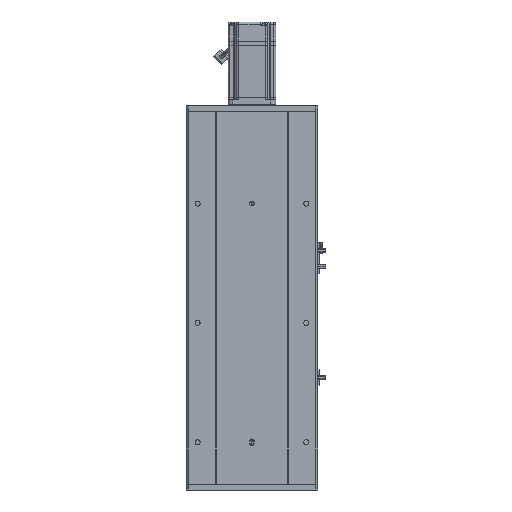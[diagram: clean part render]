
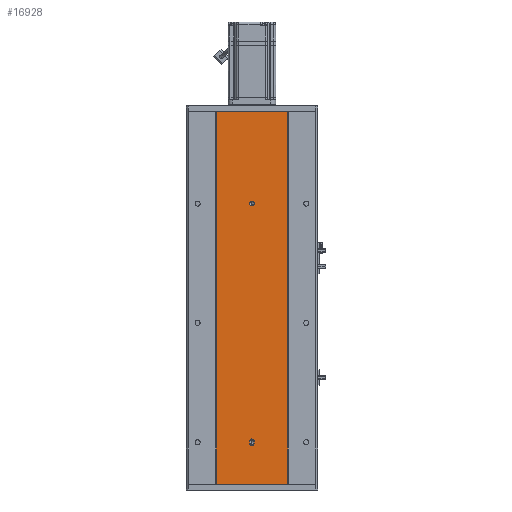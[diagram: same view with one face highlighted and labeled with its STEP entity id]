
A CAD part, front view. The second image highlights one B-rep face of the part: STEP entity #16928.
In plain terms, the highlighted planar face has unit normal (0, -1, 0).
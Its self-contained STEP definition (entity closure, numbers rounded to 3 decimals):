
#451 = EDGE_CURVE ( 'NONE', #21942, #5279, #33076, .T. ) ;
#702 = VERTEX_POINT ( 'NONE', #20061 ) ;
#1174 = DIRECTION ( 'NONE',  ( 0., 0., -1. ) ) ;
#1619 = EDGE_CURVE ( 'NONE', #4469, #5279, #26651, .T. ) ;
#3752 = CARTESIAN_POINT ( 'NONE',  ( 60., 0., 624. ) ) ;
#4342 = DIRECTION ( 'NONE',  ( 0., -1., 0. ) ) ;
#4355 = DIRECTION ( 'NONE',  ( 0., 0., -1. ) ) ;
#4469 = VERTEX_POINT ( 'NONE', #17602 ) ;
#4939 = AXIS2_PLACEMENT_3D ( 'NONE', #42041, #21781, #22253 ) ;
#5279 = VERTEX_POINT ( 'NONE', #45849 ) ;
#7322 = EDGE_CURVE ( 'NONE', #24122, #21942, #58345, .T. ) ;
#7443 = EDGE_CURVE ( 'NONE', #24122, #4469, #61464, .T. ) ;
#7444 = CARTESIAN_POINT ( 'NONE',  ( 0., 0., 64.5 ) ) ;
#9208 = EDGE_CURVE ( 'NONE', #49400, #46925, #50280, .T. ) ;
#9430 = DIRECTION ( 'NONE',  ( 0., -1., 0. ) ) ;
#9564 = EDGE_CURVE ( 'NONE', #46925, #51813, #14815, .T. ) ;
#10287 = EDGE_LOOP ( 'NONE', ( #19056, #25963 ) ) ;
#11377 = DIRECTION ( 'NONE',  ( 0., -1., 0. ) ) ;
#11634 = DIRECTION ( 'NONE',  ( 0., 0., 1. ) ) ;
#12259 = CARTESIAN_POINT ( 'NONE',  ( 4., 0., 71.5 ) ) ;
#12485 = FACE_BOUND ( 'NONE', #10287, .T. ) ;
#12892 = EDGE_CURVE ( 'NONE', #47421, #702, #50515, .T. ) ;
#14530 = CARTESIAN_POINT ( 'NONE',  ( -60., 0., 624. ) ) ;
#14815 = LINE ( 'NONE', #12259, #17984 ) ;
#15929 = AXIS2_PLACEMENT_3D ( 'NONE', #51256, #11377, #25505 ) ;
#16928 = ADVANCED_FACE ( 'NONE', ( #12485, #64480, #40836 ), #48622, .F. ) ;
#17602 = CARTESIAN_POINT ( 'NONE',  ( 60., 0., 624. ) ) ;
#17984 = VECTOR ( 'NONE', #61558, 1000. ) ;
#18127 = EDGE_CURVE ( 'NONE', #52920, #30418, #37567, .T. ) ;
#18949 = VECTOR ( 'NONE', #59409, 1000. ) ;
#19056 = ORIENTED_EDGE ( 'NONE', *, *, #48536, .F. ) ;
#19533 = AXIS2_PLACEMENT_3D ( 'NONE', #55191, #4342, #44589 ) ;
#19559 = CARTESIAN_POINT ( 'NONE',  ( 0., 0., 68.5 ) ) ;
#19692 = VECTOR ( 'NONE', #60396, 1000. ) ;
#20061 = CARTESIAN_POINT ( 'NONE',  ( -4., 0., 68.5 ) ) ;
#21781 = DIRECTION ( 'NONE',  ( 0., -1., 0. ) ) ;
#21942 = VERTEX_POINT ( 'NONE', #59705 ) ;
#22253 = DIRECTION ( 'NONE',  ( 0., 0., -1. ) ) ;
#23817 = CIRCLE ( 'NONE', #15929, 4. ) ;
#24122 = VERTEX_POINT ( 'NONE', #61521 ) ;
#24971 = EDGE_LOOP ( 'NONE', ( #48990, #45389, #45731, #49169, #57484 ) ) ;
#25505 = DIRECTION ( 'NONE',  ( 0., 0., -1. ) ) ;
#25507 = CARTESIAN_POINT ( 'NONE',  ( -60., 0., 624. ) ) ;
#25793 = CARTESIAN_POINT ( 'NONE',  ( 0., 0., 470. ) ) ;
#25963 = ORIENTED_EDGE ( 'NONE', *, *, #18127, .F. ) ;
#26651 = LINE ( 'NONE', #3752, #36838 ) ;
#27058 = CARTESIAN_POINT ( 'NONE',  ( 0., 0., 466. ) ) ;
#30281 = AXIS2_PLACEMENT_3D ( 'NONE', #19559, #9430, #4355 ) ;
#30309 = EDGE_CURVE ( 'NONE', #51813, #47421, #23817, .T. ) ;
#30418 = VERTEX_POINT ( 'NONE', #27058 ) ;
#30873 = DIRECTION ( 'NONE',  ( 0., -1., 0. ) ) ;
#31325 = CARTESIAN_POINT ( 'NONE',  ( 0., 0., 474. ) ) ;
#31877 = CIRCLE ( 'NONE', #49524, 4. ) ;
#32412 = VECTOR ( 'NONE', #1174, 1000. ) ;
#33076 = LINE ( 'NONE', #55540, #19692 ) ;
#35240 = DIRECTION ( 'NONE',  ( 0., 0., -1. ) ) ;
#36838 = VECTOR ( 'NONE', #49773, 1000. ) ;
#37567 = CIRCLE ( 'NONE', #4939, 4. ) ;
#37578 = EDGE_CURVE ( 'NONE', #702, #49400, #58974, .T. ) ;
#40836 = FACE_OUTER_BOUND ( 'NONE', #63209, .T. ) ;
#42041 = CARTESIAN_POINT ( 'NONE',  ( 0., 0., 470. ) ) ;
#42478 = DIRECTION ( 'NONE',  ( 0., 1., 0. ) ) ;
#44589 = DIRECTION ( 'NONE',  ( 0., 0., -1. ) ) ;
#44902 = VECTOR ( 'NONE', #45469, 1000. ) ;
#45389 = ORIENTED_EDGE ( 'NONE', *, *, #30309, .F. ) ;
#45469 = DIRECTION ( 'NONE',  ( 1., 0., 0. ) ) ;
#45731 = ORIENTED_EDGE ( 'NONE', *, *, #9564, .F. ) ;
#45849 = CARTESIAN_POINT ( 'NONE',  ( 60., 0., 0. ) ) ;
#46912 = CARTESIAN_POINT ( 'NONE',  ( -4., 0., 71.5 ) ) ;
#46925 = VERTEX_POINT ( 'NONE', #52014 ) ;
#47421 = VERTEX_POINT ( 'NONE', #52180 ) ;
#48345 = AXIS2_PLACEMENT_3D ( 'NONE', #57008, #42478, #11634 ) ;
#48536 = EDGE_CURVE ( 'NONE', #30418, #52920, #31877, .T. ) ;
#48622 = PLANE ( 'NONE',  #48345 ) ;
#48749 = ORIENTED_EDGE ( 'NONE', *, *, #1619, .F. ) ;
#48990 = ORIENTED_EDGE ( 'NONE', *, *, #12892, .F. ) ;
#49169 = ORIENTED_EDGE ( 'NONE', *, *, #9208, .F. ) ;
#49400 = VERTEX_POINT ( 'NONE', #7444 ) ;
#49524 = AXIS2_PLACEMENT_3D ( 'NONE', #25793, #30873, #35240 ) ;
#49773 = DIRECTION ( 'NONE',  ( 0., 0., -1. ) ) ;
#50280 = CIRCLE ( 'NONE', #30281, 4. ) ;
#50515 = LINE ( 'NONE', #46912, #32412 ) ;
#51256 = CARTESIAN_POINT ( 'NONE',  ( 0., 0., 71.5 ) ) ;
#51813 = VERTEX_POINT ( 'NONE', #58448 ) ;
#52014 = CARTESIAN_POINT ( 'NONE',  ( 4., 0., 68.5 ) ) ;
#52180 = CARTESIAN_POINT ( 'NONE',  ( -4., 0., 71.5 ) ) ;
#52920 = VERTEX_POINT ( 'NONE', #31325 ) ;
#55191 = CARTESIAN_POINT ( 'NONE',  ( 0., 0., 68.5 ) ) ;
#55540 = CARTESIAN_POINT ( 'NONE',  ( -60., 0., 0. ) ) ;
#57008 = CARTESIAN_POINT ( 'NONE',  ( -60., 0., 624. ) ) ;
#57279 = ORIENTED_EDGE ( 'NONE', *, *, #451, .T. ) ;
#57484 = ORIENTED_EDGE ( 'NONE', *, *, #37578, .F. ) ;
#58172 = ORIENTED_EDGE ( 'NONE', *, *, #7443, .F. ) ;
#58345 = LINE ( 'NONE', #14530, #18949 ) ;
#58448 = CARTESIAN_POINT ( 'NONE',  ( 4., 0., 71.5 ) ) ;
#58974 = CIRCLE ( 'NONE', #19533, 4. ) ;
#59409 = DIRECTION ( 'NONE',  ( 0., 0., -1. ) ) ;
#59705 = CARTESIAN_POINT ( 'NONE',  ( -60., 0., 0. ) ) ;
#60396 = DIRECTION ( 'NONE',  ( 1., 0., 0. ) ) ;
#61464 = LINE ( 'NONE', #25507, #44902 ) ;
#61521 = CARTESIAN_POINT ( 'NONE',  ( -60., 0., 624. ) ) ;
#61558 = DIRECTION ( 'NONE',  ( 0., 0., 1. ) ) ;
#63209 = EDGE_LOOP ( 'NONE', ( #57279, #48749, #58172, #64850 ) ) ;
#64480 = FACE_BOUND ( 'NONE', #24971, .T. ) ;
#64850 = ORIENTED_EDGE ( 'NONE', *, *, #7322, .T. ) ;
